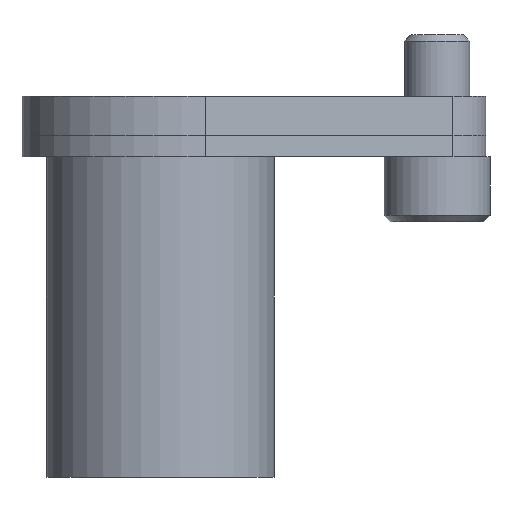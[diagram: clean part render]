
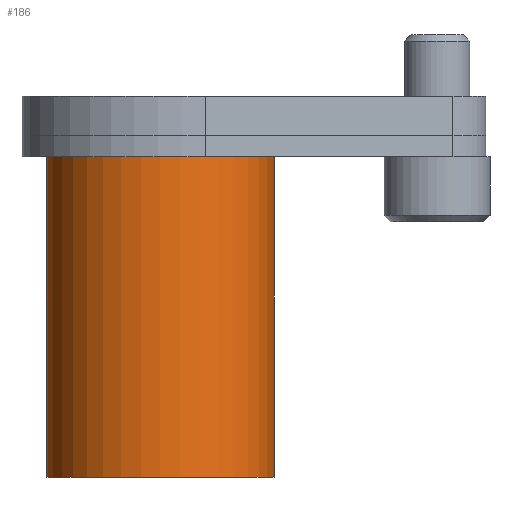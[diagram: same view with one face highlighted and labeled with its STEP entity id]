
A CAD part, front view. The second image highlights one B-rep face of the part: STEP entity #186.
In plain terms, the highlighted cylindrical face has radius 14 mm (diameter 28 mm), a partial arc.
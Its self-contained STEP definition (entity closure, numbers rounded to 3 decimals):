
#186=ADVANCED_FACE('',(#251),#221,.T.);
#221=CYLINDRICAL_SURFACE('',#1031,14.);
#251=FACE_OUTER_BOUND('',#309,.T.);
#309=EDGE_LOOP('',(#605,#606,#607,#608));
#365=LINE('',#1512,#425);
#366=LINE('',#1516,#426);
#425=VECTOR('',#1251,1.);
#426=VECTOR('',#1254,1.);
#605=ORIENTED_EDGE('',*,*,#851,.T.);
#606=ORIENTED_EDGE('',*,*,#852,.F.);
#607=ORIENTED_EDGE('',*,*,#853,.F.);
#608=ORIENTED_EDGE('',*,*,#848,.T.);
#745=VERTEX_POINT('',#1505);
#746=VERTEX_POINT('',#1507);
#747=VERTEX_POINT('',#1513);
#748=VERTEX_POINT('',#1515);
#848=EDGE_CURVE('',#746,#745,#937,.T.);
#851=EDGE_CURVE('',#745,#747,#365,.T.);
#852=EDGE_CURVE('',#748,#747,#939,.T.);
#853=EDGE_CURVE('',#746,#748,#366,.T.);
#937=CIRCLE('',#1026,14.);
#939=CIRCLE('',#1030,14.);
#1026=AXIS2_PLACEMENT_3D('',#1506,#1242,#1243);
#1030=AXIS2_PLACEMENT_3D('',#1514,#1252,#1253);
#1031=AXIS2_PLACEMENT_3D('',#1517,#1255,#1256);
#1242=DIRECTION('',(0.,0.,-1.));
#1243=DIRECTION('',(0.,1.,0.));
#1251=DIRECTION('',(0.,0.,-1.));
#1252=DIRECTION('',(0.,0.,-1.));
#1253=DIRECTION('',(0.,1.,0.));
#1254=DIRECTION('',(0.,0.,-1.));
#1255=DIRECTION('',(0.,0.,-1.));
#1256=DIRECTION('',(0.,-1.,0.));
#1505=CARTESIAN_POINT('',(-14.,0.,-7.4));
#1506=CARTESIAN_POINT('',(0.,0.,-7.4));
#1507=CARTESIAN_POINT('',(14.,0.,-7.4));
#1512=CARTESIAN_POINT('',(-14.,0.,-7.4));
#1513=CARTESIAN_POINT('',(-14.,0.,-46.8));
#1514=CARTESIAN_POINT('',(0.,0.,-46.8));
#1515=CARTESIAN_POINT('',(14.,0.,-46.8));
#1516=CARTESIAN_POINT('',(14.,0.,-7.4));
#1517=CARTESIAN_POINT('',(0.,0.,-7.4));
